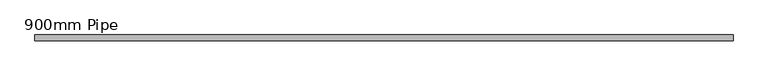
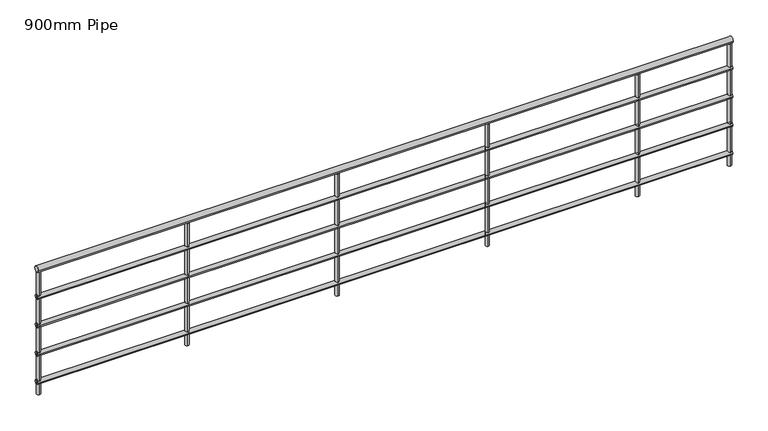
"""IFC4 building model written with IfcOpenShell, lengths in millimetres: railing geometry, 900mm Pipe."""

from ifc_helpers import new_model, si_unit, point, frame, frame_2d, origin, place, context, project, spatial, circle_curve, trimmed, segment, composite_curve, outline, extrude, source, transform, mapped, element, save


def railing_900mm_pipe_45b1395d(model_context):
    return source(origin(), model_context, "Body", "SweptSolid", [
        extrude(outline(composite_curve([segment(trimmed(circle_curve(frame_2d((-4225.1973194, 4880.0)), 20.0), [point((-4245.1973194, 4880.0))], [point((-4205.1973194, 4880.0))], False, "CARTESIAN"), True, "CONTINUOUS"), segment(trimmed(circle_curve(frame_2d((-4225.1973194, 4880.0)), 20.0), [point((-4205.1973194, 4880.0))], [point((-4245.1973194, 4880.0))], False, "CARTESIAN"), True, "CONTINUOUS")], self_intersect=False)), frame((-4155.3077176, 0.0, 0.0), z_axis=(1.0, 0.0, 0.0), x_axis=(0.0, 1.0, 0.0)), (0.0, 0.0, 1.0), 4625.0),
        extrude(outline(composite_curve([segment(trimmed(circle_curve(frame_2d((-4225.1973194, 4685.0)), 15.0), [point((-4240.1973194, 4685.0))], [point((-4210.1973194, 4685.0))], False, "CARTESIAN"), True, "CONTINUOUS"), segment(trimmed(circle_curve(frame_2d((-4225.1973194, 4685.0)), 15.0), [point((-4210.1973194, 4685.0))], [point((-4240.1973194, 4685.0))], False, "CARTESIAN"), True, "CONTINUOUS")], self_intersect=False)), frame((-4155.3077176, 0.0, 0.0), z_axis=(1.0, 0.0, 0.0), x_axis=(0.0, 1.0, 0.0)), (0.0, 0.0, 1.0), 4625.0),
        extrude(outline(composite_curve([segment(trimmed(circle_curve(frame_2d((-4225.1973194, 4485.0)), 15.0), [point((-4240.1973194, 4485.0))], [point((-4210.1973194, 4485.0))], False, "CARTESIAN"), True, "CONTINUOUS"), segment(trimmed(circle_curve(frame_2d((-4225.1973194, 4485.0)), 15.0), [point((-4210.1973194, 4485.0))], [point((-4240.1973194, 4485.0))], False, "CARTESIAN"), True, "CONTINUOUS")], self_intersect=False)), frame((-4155.3077176, 0.0, 0.0), z_axis=(1.0, 0.0, 0.0), x_axis=(0.0, 1.0, 0.0)), (0.0, 0.0, 1.0), 4625.0),
        extrude(outline(composite_curve([segment(trimmed(circle_curve(frame_2d((-4225.1973194, 4285.0)), 15.0), [point((-4240.1973194, 4285.0))], [point((-4210.1973194, 4285.0))], False, "CARTESIAN"), True, "CONTINUOUS"), segment(trimmed(circle_curve(frame_2d((-4225.1973194, 4285.0)), 15.0), [point((-4210.1973194, 4285.0))], [point((-4240.1973194, 4285.0))], False, "CARTESIAN"), True, "CONTINUOUS")], self_intersect=False)), frame((-4155.3077176, 0.0, 0.0), z_axis=(1.0, 0.0, 0.0), x_axis=(0.0, 1.0, 0.0)), (0.0, 0.0, 1.0), 4625.0),
        extrude(outline(composite_curve([segment(trimmed(circle_curve(frame_2d((-4225.1973194, 4085.0)), 15.0), [point((-4240.1973194, 4085.0))], [point((-4210.1973194, 4085.0))], False, "CARTESIAN"), True, "CONTINUOUS"), segment(trimmed(circle_curve(frame_2d((-4225.1973194, 4085.0)), 15.0), [point((-4210.1973194, 4085.0))], [point((-4240.1973194, 4085.0))], False, "CARTESIAN"), True, "CONTINUOUS")], self_intersect=False)), frame((-4155.3077176, 0.0, 0.0), z_axis=(1.0, 0.0, 0.0), x_axis=(0.0, 1.0, 0.0)), (0.0, 0.0, 1.0), 4625.0),
        extrude(outline(composite_curve([segment(trimmed(circle_curve(frame_2d((-155.3077176, -4225.1973194)), 12.5), [point((-155.3077176, -4237.6973194))], [point((-155.3077176, -4212.6973194))], False, "CARTESIAN"), True, "CONTINUOUS"), segment(trimmed(circle_curve(frame_2d((-155.3077176, -4225.1973194)), 12.5), [point((-155.3077176, -4212.6973194))], [point((-155.3077176, -4237.6973194))], False, "CARTESIAN"), True, "CONTINUOUS")], self_intersect=False)), frame((0.0, 0.0, 4000.0), z_axis=(0.0, 0.0, 1.0), x_axis=(1.0, 0.0, 0.0)), (0.0, 0.0, 1.0), 860.0),
        extrude(outline(composite_curve([segment(trimmed(circle_curve(frame_2d((-1155.3077176, -4225.1973194)), 12.5), [point((-1155.3077176, -4237.6973194))], [point((-1155.3077176, -4212.6973194))], False, "CARTESIAN"), True, "CONTINUOUS"), segment(trimmed(circle_curve(frame_2d((-1155.3077176, -4225.1973194)), 12.5), [point((-1155.3077176, -4212.6973194))], [point((-1155.3077176, -4237.6973194))], False, "CARTESIAN"), True, "CONTINUOUS")], self_intersect=False)), frame((0.0, 0.0, 4000.0), z_axis=(0.0, 0.0, 1.0), x_axis=(1.0, 0.0, 0.0)), (0.0, 0.0, 1.0), 860.0),
        extrude(outline(composite_curve([segment(trimmed(circle_curve(frame_2d((-2155.3077176, -4225.1973194)), 12.5), [point((-2155.3077176, -4237.6973194))], [point((-2155.3077176, -4212.6973194))], False, "CARTESIAN"), True, "CONTINUOUS"), segment(trimmed(circle_curve(frame_2d((-2155.3077176, -4225.1973194)), 12.5), [point((-2155.3077176, -4212.6973194))], [point((-2155.3077176, -4237.6973194))], False, "CARTESIAN"), True, "CONTINUOUS")], self_intersect=False)), frame((0.0, 0.0, 4000.0), z_axis=(0.0, 0.0, 1.0), x_axis=(1.0, 0.0, 0.0)), (0.0, 0.0, 1.0), 860.0),
        extrude(outline(composite_curve([segment(trimmed(circle_curve(frame_2d((-3155.3077176, -4225.1973194)), 12.5), [point((-3155.3077176, -4237.6973194))], [point((-3155.3077176, -4212.6973194))], False, "CARTESIAN"), True, "CONTINUOUS"), segment(trimmed(circle_curve(frame_2d((-3155.3077176, -4225.1973194)), 12.5), [point((-3155.3077176, -4212.6973194))], [point((-3155.3077176, -4237.6973194))], False, "CARTESIAN"), True, "CONTINUOUS")], self_intersect=False)), frame((0.0, 0.0, 4000.0), z_axis=(0.0, 0.0, 1.0), x_axis=(1.0, 0.0, 0.0)), (0.0, 0.0, 1.0), 860.0),
        extrude(outline(composite_curve([segment(trimmed(circle_curve(frame_2d((457.1922824, -4225.1973194)), 12.5), [point((457.1922824, -4237.6973194))], [point((457.1922824, -4212.6973194))], False, "CARTESIAN"), True, "CONTINUOUS"), segment(trimmed(circle_curve(frame_2d((457.1922824, -4225.1973194)), 12.5), [point((457.1922824, -4212.6973194))], [point((457.1922824, -4237.6973194))], False, "CARTESIAN"), True, "CONTINUOUS")], self_intersect=False)), frame((0.0, 0.0, 4000.0), z_axis=(0.0, 0.0, 1.0), x_axis=(1.0, 0.0, 0.0)), (0.0, 0.0, 1.0), 860.0),
        extrude(outline(composite_curve([segment(trimmed(circle_curve(frame_2d((-4142.8077176, -4225.1973194)), 12.5), [point((-4142.8077176, -4237.6973194))], [point((-4142.8077176, -4212.6973194))], False, "CARTESIAN"), True, "CONTINUOUS"), segment(trimmed(circle_curve(frame_2d((-4142.8077176, -4225.1973194)), 12.5), [point((-4142.8077176, -4212.6973194))], [point((-4142.8077176, -4237.6973194))], False, "CARTESIAN"), True, "CONTINUOUS")], self_intersect=False)), frame((0.0, 0.0, 4000.0), z_axis=(0.0, 0.0, 1.0), x_axis=(1.0, 0.0, 0.0)), (0.0, 0.0, 1.0), 860.0),
    ])


if __name__ == "__main__":
    model = new_model("IFC4")
    model_context = context("Model", 3, world=origin())
    ifc_project = project(units=[si_unit("LENGTHUNIT", "METRE", prefix="MILLI")], contexts=[model_context])
    site = spatial("IfcSite", under=ifc_project)
    building = spatial("IfcBuilding", under=site)
    placement = place(None, origin())
    railing_900mm_pipe_shape = railing_900mm_pipe_45b1395d(model_context)
    element("IfcRailing", 1, ObjectType="900mm Pipe", at=placement, inside=building, context=model_context, shape_type="MappedRepresentation", body=[
        mapped(railing_900mm_pipe_shape, transform((0.0, 0.0, 0.0), x_axis=(1.0, 0.0, 0.0), y_axis=(0.0, 1.0, 0.0), z_axis=(0.0, 0.0, 1.0))),
    ])
    save(model, "model.ifc")
